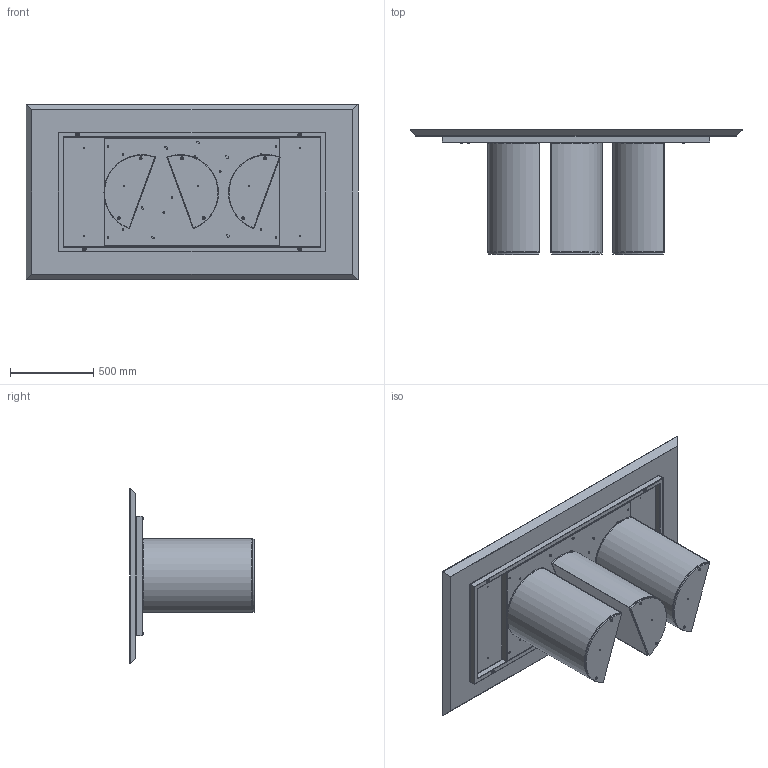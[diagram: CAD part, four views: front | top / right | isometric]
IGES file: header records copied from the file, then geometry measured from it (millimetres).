
Start section: SolidWorks IGES file using analytic representation for surfaces
Global section: file name: Y:\eforma\TECNICO\SOLIDWORKS\E-FORMA\1-TAVOLI\PLAI\02 parts\PL21W.IGS; native system: SolidWorks 2022; preprocessor: SolidWorks 2022; author: eforma.tech; date: 240807.155147; units: millimetre
Bounding box: 2000 x 752 x 1060 mm (x, y, z)
Volume: 89595992.6 mm3; surface area: 12993728.9 mm2
Topology: 44 solids, 44 shells, 1300 faces, 2948 edges, 1699 vertices
Faces by surface type: revolution 785, plane 515
